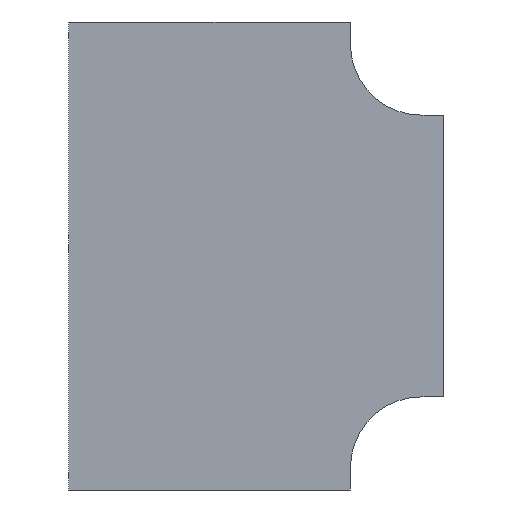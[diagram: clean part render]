
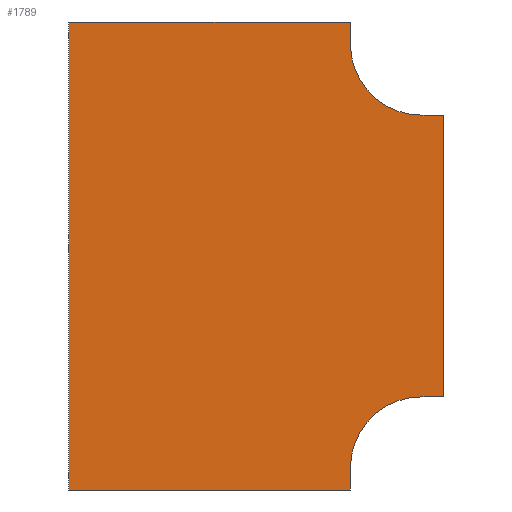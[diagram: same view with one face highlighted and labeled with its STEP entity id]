
A CAD part, front view. The second image highlights one B-rep face of the part: STEP entity #1789.
In plain terms, the highlighted planar face has unit normal (0, -1, 0).
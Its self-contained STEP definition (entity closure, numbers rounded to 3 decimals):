
#6 = ORIENTED_EDGE ( 'NONE', *, *, #1871, .F. ) ;
#16 = EDGE_CURVE ( 'NONE', #1720, #2051, #156, .T. ) ;
#29 = DIRECTION ( 'NONE',  ( -1., 0., 0. ) ) ;
#40 = EDGE_CURVE ( 'NONE', #445, #1714, #1904, .T. ) ;
#62 = EDGE_CURVE ( 'NONE', #1714, #1905, #1129, .T. ) ;
#79 = PLANE ( 'NONE',  #1099 ) ;
#103 = DIRECTION ( 'NONE',  ( 0., 0., 1. ) ) ;
#124 = CARTESIAN_POINT ( 'NONE',  ( -125., 0., -750. ) ) ;
#134 = CARTESIAN_POINT ( 'NONE',  ( 40., 0., -125. ) ) ;
#140 = VECTOR ( 'NONE', #1385, 1000. ) ;
#156 = LINE ( 'NONE', #1607, #1389 ) ;
#173 = EDGE_LOOP ( 'NONE', ( #1742, #768, #6, #1187, #1417, #2225, #1794, #1040, #2301, #297 ) ) ;
#183 = VECTOR ( 'NONE', #1652, 1000. ) ;
#197 = LINE ( 'NONE', #2048, #1191 ) ;
#275 = EDGE_CURVE ( 'NONE', #1992, #956, #2041, .T. ) ;
#297 = ORIENTED_EDGE ( 'NONE', *, *, #40, .F. ) ;
#356 = VERTEX_POINT ( 'NONE', #1683 ) ;
#398 = DIRECTION ( 'NONE',  ( 0., 0., -1. ) ) ;
#445 = VERTEX_POINT ( 'NONE', #2072 ) ;
#460 = CARTESIAN_POINT ( 'NONE',  ( 0., 0., -125. ) ) ;
#467 = CARTESIAN_POINT ( 'NONE',  ( 0., 0., 0. ) ) ;
#634 = AXIS2_PLACEMENT_3D ( 'NONE', #467, #2097, #814 ) ;
#635 = EDGE_CURVE ( 'NONE', #1834, #664, #1275, .T. ) ;
#664 = VERTEX_POINT ( 'NONE', #973 ) ;
#684 = VECTOR ( 'NONE', #29, 1000. ) ;
#760 = VECTOR ( 'NONE', #1995, 1000. ) ;
#768 = ORIENTED_EDGE ( 'NONE', *, *, #16, .F. ) ;
#795 = CARTESIAN_POINT ( 'NONE',  ( -625., 0., -790. ) ) ;
#814 = DIRECTION ( 'NONE',  ( 0., 0., -1. ) ) ;
#819 = DIRECTION ( 'NONE',  ( 0., -1., 0. ) ) ;
#956 = VERTEX_POINT ( 'NONE', #1672 ) ;
#973 = CARTESIAN_POINT ( 'NONE',  ( 0., 0., -625. ) ) ;
#982 = LINE ( 'NONE', #795, #684 ) ;
#1037 = EDGE_CURVE ( 'NONE', #664, #1992, #1858, .T. ) ;
#1040 = ORIENTED_EDGE ( 'NONE', *, *, #2186, .F. ) ;
#1099 = AXIS2_PLACEMENT_3D ( 'NONE', #2251, #1158, #398 ) ;
#1129 = CIRCLE ( 'NONE', #634, 125. ) ;
#1158 = DIRECTION ( 'NONE',  ( 0., -1., 0. ) ) ;
#1187 = ORIENTED_EDGE ( 'NONE', *, *, #275, .F. ) ;
#1191 = VECTOR ( 'NONE', #1668, 1000. ) ;
#1207 = AXIS2_PLACEMENT_3D ( 'NONE', #1899, #819, #1532 ) ;
#1261 = DIRECTION ( 'NONE',  ( 1., 0., 0. ) ) ;
#1275 = LINE ( 'NONE', #1662, #760 ) ;
#1369 = DIRECTION ( 'NONE',  ( 0., 0., -1. ) ) ;
#1385 = DIRECTION ( 'NONE',  ( 0., 0., -1. ) ) ;
#1389 = VECTOR ( 'NONE', #103, 1000. ) ;
#1417 = ORIENTED_EDGE ( 'NONE', *, *, #1037, .F. ) ;
#1457 = LINE ( 'NONE', #2148, #2013 ) ;
#1465 = CARTESIAN_POINT ( 'NONE',  ( -625., 0., 40. ) ) ;
#1511 = VECTOR ( 'NONE', #1369, 1000. ) ;
#1532 = DIRECTION ( 'NONE',  ( 0., 0., 1. ) ) ;
#1602 = EDGE_CURVE ( 'NONE', #356, #1834, #1765, .T. ) ;
#1607 = CARTESIAN_POINT ( 'NONE',  ( -625., 0., -790. ) ) ;
#1652 = DIRECTION ( 'NONE',  ( 0., 0., -1. ) ) ;
#1662 = CARTESIAN_POINT ( 'NONE',  ( 0., 0., -625. ) ) ;
#1668 = DIRECTION ( 'NONE',  ( 1., 0., 0. ) ) ;
#1671 = CARTESIAN_POINT ( 'NONE',  ( 40., 0., -625. ) ) ;
#1672 = CARTESIAN_POINT ( 'NONE',  ( -125., 0., -790. ) ) ;
#1683 = CARTESIAN_POINT ( 'NONE',  ( 40., 0., -125. ) ) ;
#1714 = VERTEX_POINT ( 'NONE', #2002 ) ;
#1719 = EDGE_CURVE ( 'NONE', #2051, #445, #1457, .T. ) ;
#1720 = VERTEX_POINT ( 'NONE', #2340 ) ;
#1742 = ORIENTED_EDGE ( 'NONE', *, *, #1719, .F. ) ;
#1765 = LINE ( 'NONE', #134, #1511 ) ;
#1789 = ADVANCED_FACE ( 'NONE', ( #2228 ), #79, .T. ) ;
#1794 = ORIENTED_EDGE ( 'NONE', *, *, #1602, .F. ) ;
#1834 = VERTEX_POINT ( 'NONE', #1671 ) ;
#1858 = CIRCLE ( 'NONE', #1207, 125. ) ;
#1871 = EDGE_CURVE ( 'NONE', #956, #1720, #982, .T. ) ;
#1899 = CARTESIAN_POINT ( 'NONE',  ( 0., 0., -750. ) ) ;
#1904 = LINE ( 'NONE', #2125, #140 ) ;
#1905 = VERTEX_POINT ( 'NONE', #460 ) ;
#1992 = VERTEX_POINT ( 'NONE', #124 ) ;
#1995 = DIRECTION ( 'NONE',  ( -1., 0., 0. ) ) ;
#2002 = CARTESIAN_POINT ( 'NONE',  ( -125., 0., 0. ) ) ;
#2013 = VECTOR ( 'NONE', #1261, 1000. ) ;
#2041 = LINE ( 'NONE', #2198, #183 ) ;
#2048 = CARTESIAN_POINT ( 'NONE',  ( 0., 0., -125. ) ) ;
#2051 = VERTEX_POINT ( 'NONE', #1465 ) ;
#2072 = CARTESIAN_POINT ( 'NONE',  ( -125., 0., 40. ) ) ;
#2097 = DIRECTION ( 'NONE',  ( 0., -1., 0. ) ) ;
#2125 = CARTESIAN_POINT ( 'NONE',  ( -125., 0., 40. ) ) ;
#2148 = CARTESIAN_POINT ( 'NONE',  ( -625., 0., 40. ) ) ;
#2186 = EDGE_CURVE ( 'NONE', #1905, #356, #197, .T. ) ;
#2198 = CARTESIAN_POINT ( 'NONE',  ( -125., 0., -790. ) ) ;
#2225 = ORIENTED_EDGE ( 'NONE', *, *, #635, .F. ) ;
#2228 = FACE_OUTER_BOUND ( 'NONE', #173, .T. ) ;
#2251 = CARTESIAN_POINT ( 'NONE',  ( 0., 0., 0. ) ) ;
#2301 = ORIENTED_EDGE ( 'NONE', *, *, #62, .F. ) ;
#2340 = CARTESIAN_POINT ( 'NONE',  ( -625., 0., -790. ) ) ;
